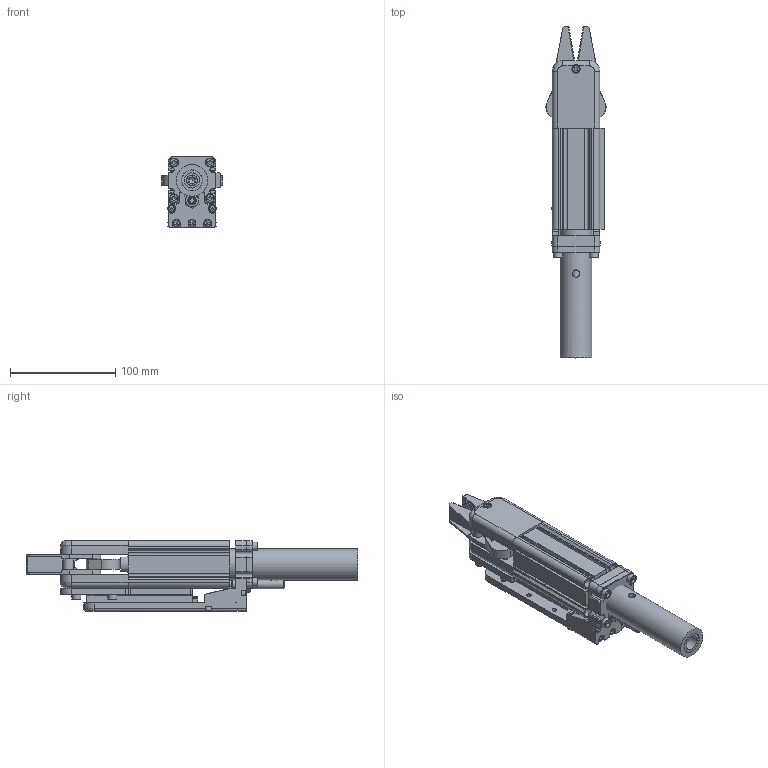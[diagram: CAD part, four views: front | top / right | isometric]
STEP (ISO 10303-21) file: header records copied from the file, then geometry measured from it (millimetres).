
FILE_DESCRIPTION(/* description */ (''),/* implementation_level */ '2;1');
FILE_NAME(/* name */ 'GRP32B-30--30.stp',/* time_stamp */ '2023-02-20T15:50:08+08:00',/* author */ (''),/* organization */ (''),/* preprocessor_version */ 'ST-DEVELOPER v16',/* originating_system */ 'SIEMENS PLM Software NX 10.0',/* authorisation */ '');
FILE_SCHEMA (('AUTOMOTIVE_DESIGN { 1 0 10303 214 3 1 1 1 }'));
Products named in the file (1): _model27
Bounding box: 56.95 x 314.81 x 67 mm (x, y, z)
Volume: 415339.9 mm3; surface area: 183829.8 mm2
Topology: 22 solids, 41 shells, 2652 faces, 5459 edges, 2895 vertices
Faces by surface type: plane 2160, cylinder 307, cone 142, torus 25, revolution 14, bspline 4
Full cylindrical faces by diameter (mm): 2.5 x2, 3.3 x6, 4 x12, 4.1 x1, 4.2 x14, 4.5 x10, 5 x13, 5.2 x8, 5.5 x8, 6 x9, 6.5 x1, 6.647 x2, 6.8 x1, 6.897 x2, 7 x12, 8 x11, 8.485 x1, 8.5 x13, 8.566 x4, 9 x12, 10 x5, 13 x1, 13.5 x1, 14 x1, 14.5 x1, 15 x2, 16 x5, 17 x12, 19.5 x1, 20 x4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
Entity records: 84037 total; most frequent: CARTESIAN_POINT 12687, DIRECTION 11012, ORIENTED_EDGE 9848, EDGE_CURVE 4924, LINE 3874, VECTOR 3874, AXIS2_PLACEMENT_3D 3562, EDGE_LOOP 3142
